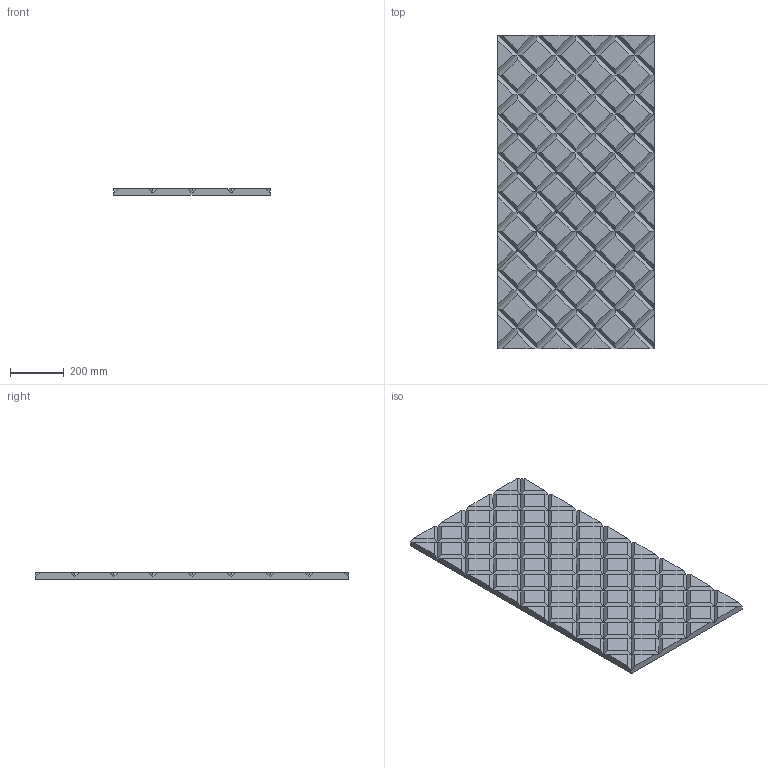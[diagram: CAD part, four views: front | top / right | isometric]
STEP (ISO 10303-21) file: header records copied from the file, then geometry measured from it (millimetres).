
FILE_DESCRIPTION (( 'STEP AP214' ), '1' );
FILE_NAME ('quilted.STEP', '2015-01-21T17:09:35', ( '' ), ( '' ), 'SwSTEP 2.0', 'SolidWorks 2014', '' );
FILE_SCHEMA (( 'AUTOMOTIVE_DESIGN' ));
Length unit declared in the file: millimetre
Products named in the file (1): quilted
Bounding box: 580 x 1160 x 25 mm (x, y, z)
Volume: 14936057 mm3; surface area: 1546630.6 mm2
Topology: 1 solids, 1 shells, 337 faces, 696 edges, 361 vertices
Faces by surface type: plane 337
Entity records: 8332 total; most frequent: CARTESIAN_POINT 1395, ORIENTED_EDGE 1392, DIRECTION 1372, LINE 696, EDGE_CURVE 696, VECTOR 696, VERTEX_POINT 361, AXIS2_PLACEMENT_3D 338
